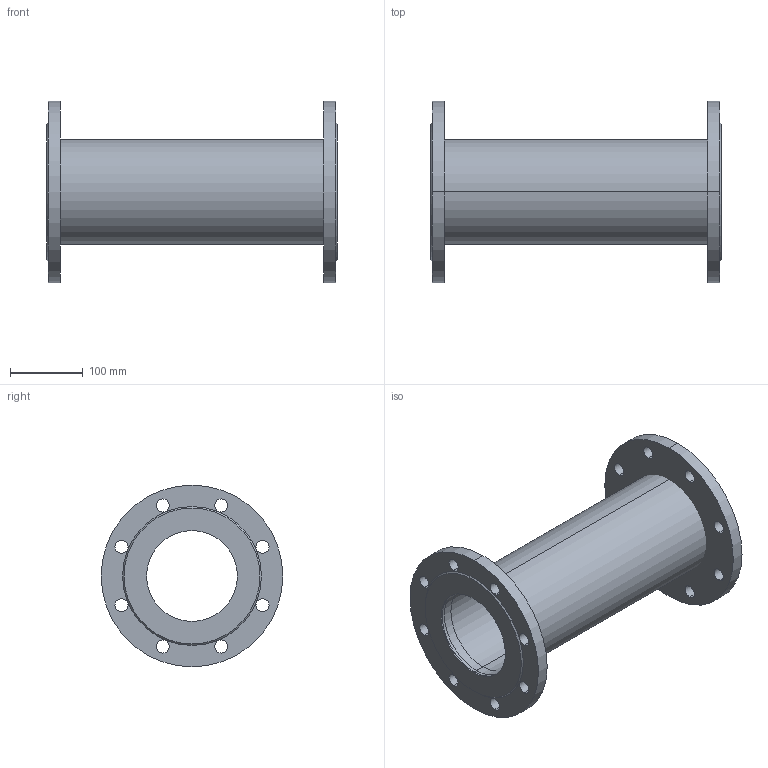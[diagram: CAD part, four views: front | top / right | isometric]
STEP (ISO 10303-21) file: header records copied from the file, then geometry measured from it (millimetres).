
FILE_DESCRIPTION(('STEP AP214'),'1');
FILE_NAME('U:/VDI-Daten/8500/8500_PN16_DN125_L400.STP','2012-06-12T15:09:16',(' '),(' '),'Spatial InterOp 3D',' ',' ');
FILE_SCHEMA(('automotive_design'));
Length unit declared in the file: millimetre
Products named in the file (5): 3D-Objekt
Bounding box: 400 x 250 x 250 mm (x, y, z)
Volume: 2801141.3 mm3; surface area: 598131.4 mm2
Topology: 5 solids, 5 shells, 62 faces, 156 edges, 104 vertices
Faces by surface type: cylinder 48, plane 10, cone 4
Entity records: 2621 total; most frequent: DIRECTION 394, CARTESIAN_POINT 327, ORIENTED_EDGE 312, AXIS2_PLACEMENT_3D 171, EDGE_CURVE 156, EDGE_LOOP 104, VERTEX_POINT 104, CIRCLE 104
